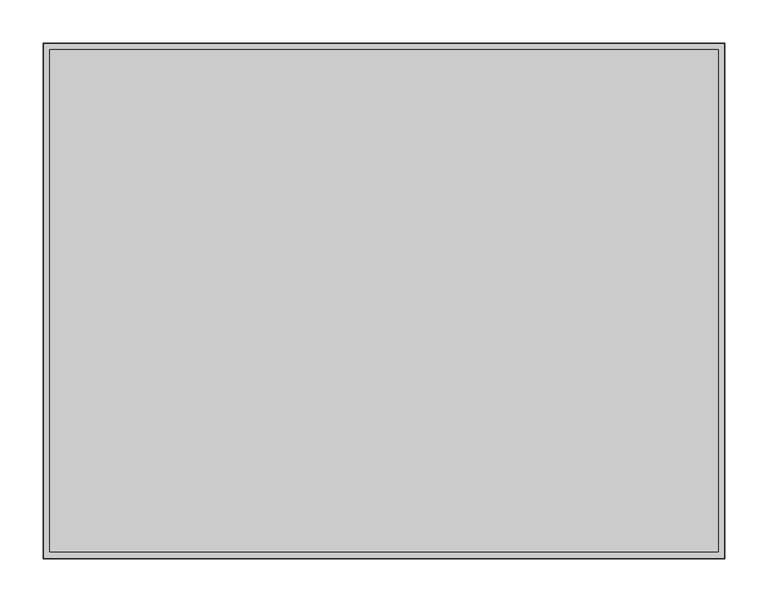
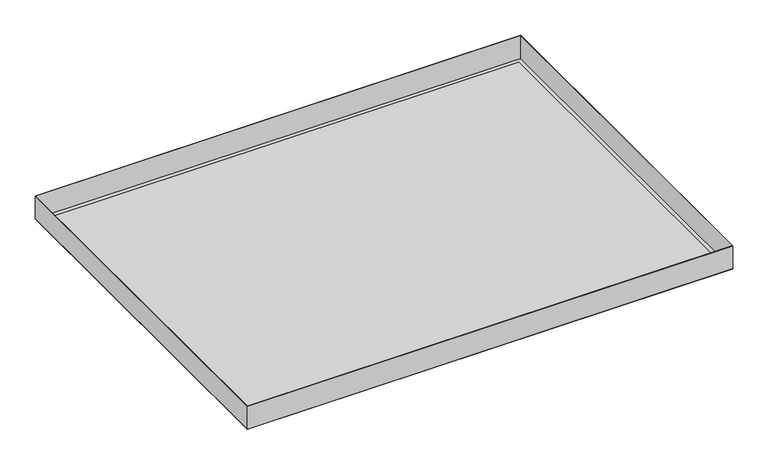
"""IFC4 building model written with IfcOpenShell, lengths in millimetres: proxy geometry, durlum_S7_panel : durlum_S7_panel_wall_length_cut."""

from ifc_helpers import new_model, si_unit, frame, origin, origin_with_axes, place, context, project, spatial, polyline, outline, extrude, source, transform, mapped, element, save


def generic_models_65a62dc2(model_context):
    return source(origin(), model_context, "Body", "SweptSolid", [
        extrude(outline(polyline([(396.0, 299.75), (396.0, -299.75), (-396.0, -299.75), (-396.0, 299.75), (396.0, 299.75)]), holes=[polyline([(395.4, 299.15), (-395.4, 299.15), (-395.4, -299.15), (395.4, -299.15), (395.4, 299.15)])]), frame((0.0, 0.0, 0.6), z_axis=(0.0, 0.0, 1.0), x_axis=(1.0, 0.0, 0.0)), (0.0, 0.0, 1.0), 39.4),
        extrude(outline(polyline([(388.0, 291.75), (388.0, -291.75), (-388.0, -291.75), (-388.0, 291.75), (388.0, 291.75)])), frame((0.0, 0.0, 0.6), z_axis=(0.0, 0.0, 1.0), x_axis=(1.0, 0.0, 0.0)), (0.0, 0.0, 1.0), 0.6),
        extrude(outline(polyline([(396.0, 299.75), (396.0, -299.75), (-396.0, -299.75), (-396.0, 299.75), (396.0, 299.75)]), holes=[polyline([(388.0, 291.75), (-388.0, 291.75), (-388.0, -291.75), (388.0, -291.75), (388.0, 291.75)])]), origin_with_axes(), (0.0, 0.0, 1.0), 0.6),
        extrude(outline(polyline([(388.0, 291.75), (388.0, -291.75), (-388.0, -291.75), (-388.0, 291.75), (388.0, 291.75)])), origin_with_axes(), (0.0, 0.0, 1.0), 0.6),
    ])


if __name__ == "__main__":
    model = new_model("IFC4")
    model_context = context("Model", 3, world=origin())
    ifc_project = project(units=[si_unit("LENGTHUNIT", "METRE", prefix="MILLI")], contexts=[model_context])
    site = spatial("IfcSite", under=ifc_project)
    building = spatial("IfcBuilding", under=site)
    placement = place(None, origin())
    generic_models_shape = generic_models_65a62dc2(model_context)
    element("IfcBuildingElementProxy", 1, Name="durlum_S7_panel : durlum_S7_panel_wall_length_cut", ObjectType="durlum_S7_panel : durlum_S7_panel_wall_length_cut", at=placement, inside=building, context=model_context, shape_type="MappedRepresentation", body=[
        mapped(generic_models_shape, transform((0.0, 0.0, 0.0), x_axis=(1.0, 0.0, 0.0), y_axis=(0.0, 1.0, 0.0), z_axis=(0.0, 0.0, 1.0))),
    ])
    save(model, "model.ifc")
